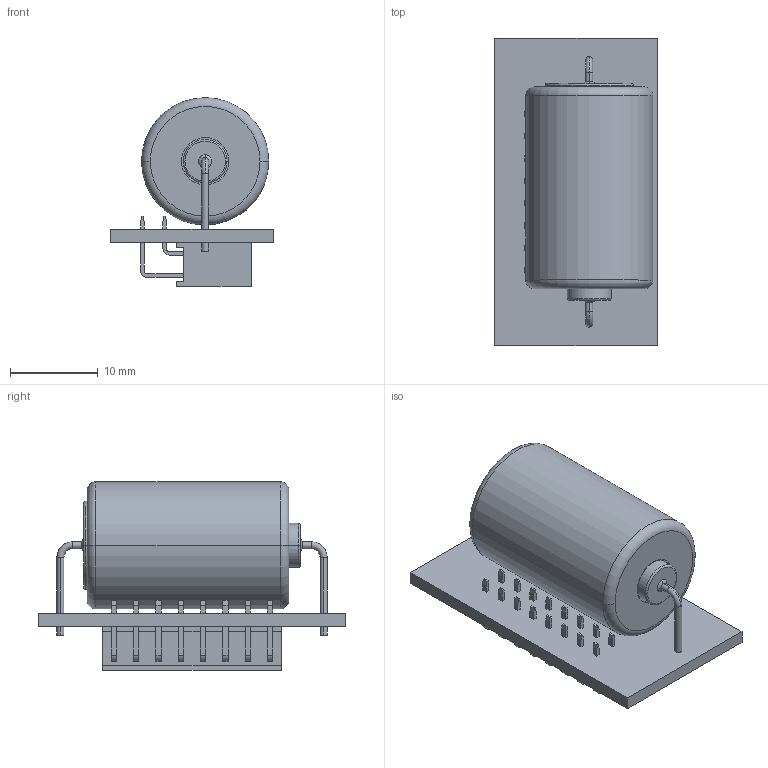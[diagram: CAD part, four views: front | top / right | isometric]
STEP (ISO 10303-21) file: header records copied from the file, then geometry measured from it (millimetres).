
FILE_DESCRIPTION (( 'STEP AP214' ), '1' );
FILE_NAME ('Ýëåìåíò ïèòàíèÿ äëÿ ðàñöåïèòåëåé MR OptiMat D400, D630, D800, D1000, D1250, D1600_äëÿ ñáîðêè.STEP', '2023-04-26T12:36:04', ( '' ), ( '' ), 'SwSTEP 2.0', 'SolidWorks 2018', '' );
FILE_SCHEMA (( 'AUTOMOTIVE_DESIGN' ));
Length unit declared in the file: millimetre
Products named in the file (1): Ýëåìåíò ïèòàíèÿ äëÿ ðàñöåïèòåëåé MR OptiMat D400, D630, D800, D1000, D1250, D1600_äëÿ ñáîðêè
Bounding box: 18.5 x 35 x 21.5 mm (x, y, z)
Volume: 5606.7 mm3; surface area: 3641.7 mm2
Topology: 1 solids, 1 shells, 381 faces, 998 edges, 660 vertices
Faces by surface type: plane 311, cylinder 54, torus 12, sphere 4
Entity records: 15877 total; most frequent: CARTESIAN_POINT 2040, ORIENTED_EDGE 1996, DIRECTION 1902, EDGE_CURVE 998, VECTOR 858, LINE 858, VERTEX_POINT 660, AXIS2_PLACEMENT_3D 522
